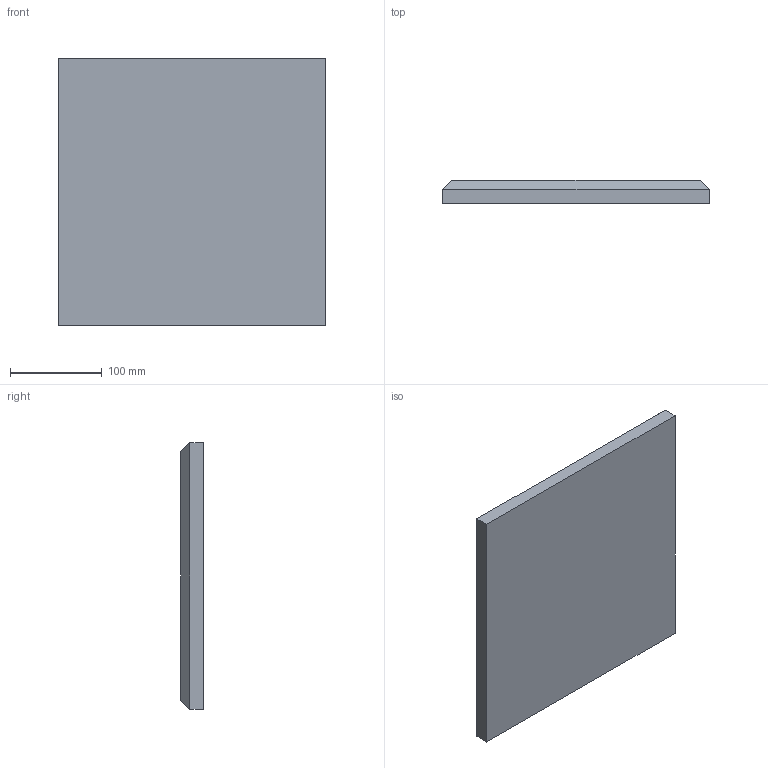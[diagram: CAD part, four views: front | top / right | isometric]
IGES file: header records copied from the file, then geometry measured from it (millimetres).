
Start section: SolidWorks IGES file using analytic representation for surfaces
Global section: file name: \\SERVER\fuwl_shared\FUWL Studio\01 CLIENTS\Baux\Art Direction\Toolkit\3D_files\BAUX Pixels\Pixel_25.IGS; native system: SolidWorks 2014; preprocessor: SolidWorks 2014; author: info; date: 160608.091831; units: millimetre
Bounding box: 290 x 25 x 290 mm (x, y, z)
Surface area: 190239.2 mm2 (no closed solid volume)
Topology: 0 solids, 0 shells, 10 faces, 40 edges, 40 vertices
Faces by surface type: bspline 10
